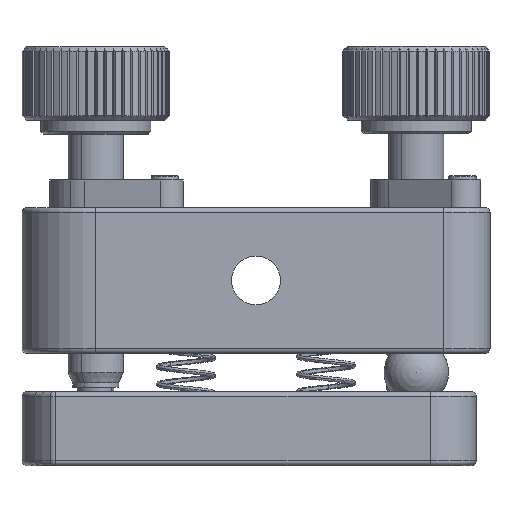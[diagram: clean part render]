
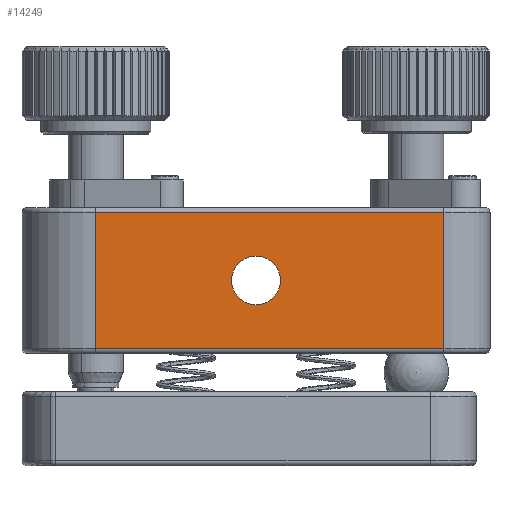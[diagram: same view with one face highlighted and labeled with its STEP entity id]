
A CAD part, front view. The second image highlights one B-rep face of the part: STEP entity #14249.
In plain terms, the highlighted planar face has unit normal (0, -1, 0).
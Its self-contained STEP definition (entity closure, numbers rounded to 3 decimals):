
#367 = EDGE_CURVE ( 'NONE', #9549, #16179, #2621, .T. ) ;
#734 = DIRECTION ( 'NONE',  ( 0., -1., 0. ) ) ;
#2621 = CIRCLE ( 'NONE', #27912, 2.65 ) ;
#2843 = LINE ( 'NONE', #14627, #11660 ) ;
#3174 = AXIS2_PLACEMENT_3D ( 'NONE', #29906, #3433, #15214 ) ;
#3433 = DIRECTION ( 'NONE',  ( 0., 1., 0. ) ) ;
#3797 = CARTESIAN_POINT ( 'NONE',  ( -60.993, -30.837, 43.4 ) ) ;
#5475 = ORIENTED_EDGE ( 'NONE', *, *, #27387, .T. ) ;
#5616 = AXIS2_PLACEMENT_3D ( 'NONE', #27211, #734, #12518 ) ;
#5702 = ORIENTED_EDGE ( 'NONE', *, *, #19141, .T. ) ;
#6323 = FACE_OUTER_BOUND ( 'NONE', #23233, .T. ) ;
#6348 = EDGE_CURVE ( 'NONE', #18478, #24630, #33938, .T. ) ;
#6586 = CARTESIAN_POINT ( 'NONE',  ( -43.593, -30.837, 50.8 ) ) ;
#7441 = CARTESIAN_POINT ( 'NONE',  ( -60.993, -30.837, 58.2 ) ) ;
#8142 = LINE ( 'NONE', #19952, #16498 ) ;
#8214 = VECTOR ( 'NONE', #19250, 1000. ) ;
#9549 = VERTEX_POINT ( 'NONE', #17673 ) ;
#11304 = ORIENTED_EDGE ( 'NONE', *, *, #25055, .F. ) ;
#11660 = VECTOR ( 'NONE', #26418, 1000. ) ;
#11908 = CARTESIAN_POINT ( 'NONE',  ( -23.193, -30.837, 43.4 ) ) ;
#12411 = LINE ( 'NONE', #24198, #35247 ) ;
#12518 = DIRECTION ( 'NONE',  ( 0., 0., -1. ) ) ;
#14249 = ADVANCED_FACE ( 'NONE', ( #32817, #6323 ), #18129, .F. ) ;
#14502 = ORIENTED_EDGE ( 'NONE', *, *, #367, .F. ) ;
#14627 = CARTESIAN_POINT ( 'NONE',  ( -23.193, -30.837, 58.7 ) ) ;
#15214 = DIRECTION ( 'NONE',  ( 0., 0., 1. ) ) ;
#15561 = EDGE_CURVE ( 'NONE', #16179, #9549, #28428, .T. ) ;
#16179 = VERTEX_POINT ( 'NONE', #34248 ) ;
#16498 = VECTOR ( 'NONE', #31746, 1000. ) ;
#17673 = CARTESIAN_POINT ( 'NONE',  ( -43.593, -30.837, 53.45 ) ) ;
#18129 = PLANE ( 'NONE',  #3174 ) ;
#18392 = DIRECTION ( 'NONE',  ( 0., -1., 0. ) ) ;
#18430 = EDGE_LOOP ( 'NONE', ( #28358, #14502 ) ) ;
#18478 = VERTEX_POINT ( 'NONE', #21928 ) ;
#19141 = EDGE_CURVE ( 'NONE', #25218, #34895, #8142, .T. ) ;
#19250 = DIRECTION ( 'NONE',  ( -1., 0., 0. ) ) ;
#19952 = CARTESIAN_POINT ( 'NONE',  ( -60.993, -30.837, 43.4 ) ) ;
#21928 = CARTESIAN_POINT ( 'NONE',  ( -23.193, -30.837, 58.2 ) ) ;
#23233 = EDGE_LOOP ( 'NONE', ( #5475, #5702, #11304, #23425 ) ) ;
#23425 = ORIENTED_EDGE ( 'NONE', *, *, #6348, .T. ) ;
#24198 = CARTESIAN_POINT ( 'NONE',  ( -60.993, -30.837, 58.7 ) ) ;
#24630 = VERTEX_POINT ( 'NONE', #26852 ) ;
#25055 = EDGE_CURVE ( 'NONE', #18478, #34895, #2843, .T. ) ;
#25218 = VERTEX_POINT ( 'NONE', #3797 ) ;
#26418 = DIRECTION ( 'NONE',  ( 0., 0., -1. ) ) ;
#26852 = CARTESIAN_POINT ( 'NONE',  ( -60.993, -30.837, 58.2 ) ) ;
#27211 = CARTESIAN_POINT ( 'NONE',  ( -43.593, -30.837, 50.8 ) ) ;
#27387 = EDGE_CURVE ( 'NONE', #24630, #25218, #12411, .T. ) ;
#27912 = AXIS2_PLACEMENT_3D ( 'NONE', #6586, #18392, #30173 ) ;
#28358 = ORIENTED_EDGE ( 'NONE', *, *, #15561, .F. ) ;
#28428 = CIRCLE ( 'NONE', #5616, 2.65 ) ;
#29906 = CARTESIAN_POINT ( 'NONE',  ( -60.993, -30.837, 58.7 ) ) ;
#30173 = DIRECTION ( 'NONE',  ( 0., 0., -1. ) ) ;
#31746 = DIRECTION ( 'NONE',  ( 1., 0., 0. ) ) ;
#32817 = FACE_BOUND ( 'NONE', #18430, .T. ) ;
#33938 = LINE ( 'NONE', #7441, #8214 ) ;
#34248 = CARTESIAN_POINT ( 'NONE',  ( -43.593, -30.837, 48.15 ) ) ;
#34895 = VERTEX_POINT ( 'NONE', #11908 ) ;
#35247 = VECTOR ( 'NONE', #36005, 1000. ) ;
#36005 = DIRECTION ( 'NONE',  ( 0., 0., -1. ) ) ;
